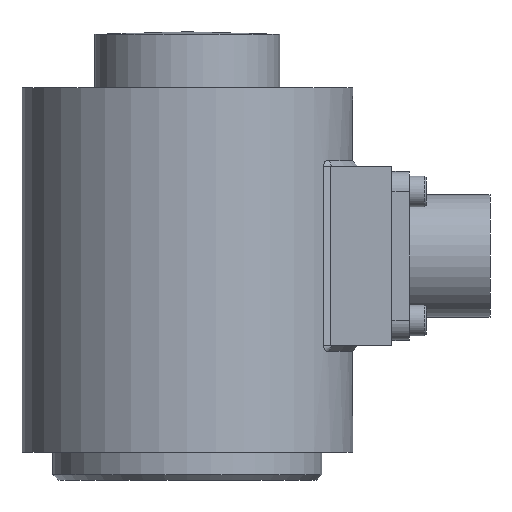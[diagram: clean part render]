
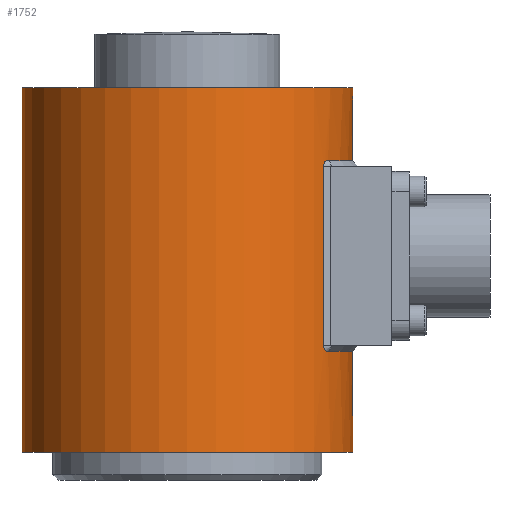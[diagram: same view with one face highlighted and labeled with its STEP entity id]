
A CAD part, left-side view. The second image highlights one B-rep face of the part: STEP entity #1752.
In plain terms, the highlighted cylindrical face has radius 29.5 mm (diameter 59 mm), a full revolution.
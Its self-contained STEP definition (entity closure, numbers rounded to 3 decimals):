
#34=B_SPLINE_CURVE_WITH_KNOTS('',3,(#2540,#2541,#2542,#2543,#2544),
 .UNSPECIFIED.,.F.,.F.,(4,1,4),(0.,0.5,1.),.UNSPECIFIED.);
#37=B_SPLINE_CURVE_WITH_KNOTS('',3,(#2561,#2562,#2563,#2564,#2565),
 .UNSPECIFIED.,.F.,.F.,(4,1,4),(0.,0.5,1.),.UNSPECIFIED.);
#38=B_SPLINE_CURVE_WITH_KNOTS('',3,(#2569,#2570,#2571,#2572,#2573),
 .UNSPECIFIED.,.F.,.F.,(4,1,4),(0.,0.5,1.),.UNSPECIFIED.);
#39=B_SPLINE_CURVE_WITH_KNOTS('',3,(#2576,#2577,#2578,#2579,#2580),
 .UNSPECIFIED.,.F.,.F.,(4,1,4),(0.,0.5,1.),.UNSPECIFIED.);
#143=LINE('',#2556,#243);
#144=LINE('',#2567,#244);
#243=VECTOR('',#2167,1000.);
#244=VECTOR('',#2172,1000.);
#257=CYLINDRICAL_SURFACE('',#1863,29.5);
#538=ORIENTED_EDGE('',*,*,#724,.F.);
#539=ORIENTED_EDGE('',*,*,#725,.T.);
#540=ORIENTED_EDGE('',*,*,#726,.F.);
#541=ORIENTED_EDGE('',*,*,#727,.T.);
#542=ORIENTED_EDGE('',*,*,#728,.F.);
#543=ORIENTED_EDGE('',*,*,#720,.T.);
#544=ORIENTED_EDGE('',*,*,#723,.F.);
#545=ORIENTED_EDGE('',*,*,#729,.T.);
#546=ORIENTED_EDGE('',*,*,#730,.T.);
#547=ORIENTED_EDGE('',*,*,#731,.T.);
#720=EDGE_CURVE('',#841,#840,#34,.T.);
#723=EDGE_CURVE('',#842,#840,#143,.F.);
#724=EDGE_CURVE('',#843,#844,#883,.T.);
#725=EDGE_CURVE('',#843,#845,#37,.T.);
#726=EDGE_CURVE('',#846,#845,#144,.T.);
#727=EDGE_CURVE('',#846,#847,#38,.T.);
#728=EDGE_CURVE('',#841,#847,#884,.T.);
#729=EDGE_CURVE('',#842,#844,#39,.T.);
#730=EDGE_CURVE('',#848,#848,#885,.T.);
#731=EDGE_CURVE('',#849,#849,#886,.F.);
#840=VERTEX_POINT('',#2539);
#841=VERTEX_POINT('',#2545);
#842=VERTEX_POINT('',#2555);
#843=VERTEX_POINT('',#2559);
#844=VERTEX_POINT('',#2560);
#845=VERTEX_POINT('',#2566);
#846=VERTEX_POINT('',#2568);
#847=VERTEX_POINT('',#2574);
#848=VERTEX_POINT('',#2582);
#849=VERTEX_POINT('',#2584);
#883=CIRCLE('',#1864,29.5);
#884=CIRCLE('',#1865,29.5);
#885=CIRCLE('',#1866,29.5);
#886=CIRCLE('',#1867,29.5);
#979=EDGE_LOOP('',(#538,#539,#540,#541,#542,#543,#544,#545));
#980=EDGE_LOOP('',(#546));
#981=EDGE_LOOP('',(#547));
#1085=FACE_BOUND('',#979,.T.);
#1086=FACE_BOUND('',#980,.T.);
#1087=FACE_BOUND('',#981,.T.);
#1752=ADVANCED_FACE('',(#1085,#1086,#1087),#257,.T.);
#1863=AXIS2_PLACEMENT_3D('',#2557,#2168,#2169);
#1864=AXIS2_PLACEMENT_3D('',#2558,#2170,#2171);
#1865=AXIS2_PLACEMENT_3D('',#2575,#2173,#2174);
#1866=AXIS2_PLACEMENT_3D('',#2581,#2175,#2176);
#1867=AXIS2_PLACEMENT_3D('',#2583,#2177,#2178);
#2167=DIRECTION('',(0.,0.,1.));
#2168=DIRECTION('',(0.,0.,1.));
#2169=DIRECTION('',(1.,0.,0.));
#2170=DIRECTION('',(0.,0.,-1.));
#2171=DIRECTION('',(-1.,0.,0.));
#2172=DIRECTION('',(0.,0.,1.));
#2173=DIRECTION('',(0.,0.,1.));
#2174=DIRECTION('',(1.,0.,0.));
#2175=DIRECTION('',(0.,0.,-1.));
#2176=DIRECTION('',(1.,0.,0.));
#2177=DIRECTION('',(0.,0.,-1.));
#2178=DIRECTION('',(-1.,0.,0.));
#2539=CARTESIAN_POINT('',(-16.66,-24.345,-20.99));
#2540=CARTESIAN_POINT('',(-15.466,-25.121,-22.));
#2541=CARTESIAN_POINT('',(-15.741,-24.952,-22.085));
#2542=CARTESIAN_POINT('',(-16.359,-24.554,-21.98));
#2543=CARTESIAN_POINT('',(-16.66,-24.345,-21.324));
#2544=CARTESIAN_POINT('',(-16.66,-24.345,-20.99));
#2545=CARTESIAN_POINT('',(-15.466,-25.121,-22.));
#2555=CARTESIAN_POINT('',(-16.66,-24.345,10.99));
#2556=CARTESIAN_POINT('',(-16.66,-24.345,-164.276));
#2557=CARTESIAN_POINT('',(0.,0.,-164.276));
#2558=CARTESIAN_POINT('',(0.,0.,12.));
#2559=CARTESIAN_POINT('',(15.466,-25.121,12.));
#2560=CARTESIAN_POINT('',(-15.466,-25.121,12.));
#2561=CARTESIAN_POINT('',(15.466,-25.121,12.));
#2562=CARTESIAN_POINT('',(15.741,-24.952,12.085));
#2563=CARTESIAN_POINT('',(16.359,-24.554,11.98));
#2564=CARTESIAN_POINT('',(16.66,-24.345,11.324));
#2565=CARTESIAN_POINT('',(16.66,-24.345,10.99));
#2566=CARTESIAN_POINT('',(16.66,-24.345,10.99));
#2567=CARTESIAN_POINT('',(16.66,-24.345,-164.276));
#2568=CARTESIAN_POINT('',(16.66,-24.345,-20.99));
#2569=CARTESIAN_POINT('',(16.66,-24.345,-20.99));
#2570=CARTESIAN_POINT('',(16.66,-24.345,-21.323));
#2571=CARTESIAN_POINT('',(16.356,-24.556,-21.983));
#2572=CARTESIAN_POINT('',(15.741,-24.952,-22.085));
#2573=CARTESIAN_POINT('',(15.466,-25.121,-22.));
#2574=CARTESIAN_POINT('',(15.466,-25.121,-22.));
#2575=CARTESIAN_POINT('',(0.,0.,-22.));
#2576=CARTESIAN_POINT('',(-16.66,-24.345,10.99));
#2577=CARTESIAN_POINT('',(-16.66,-24.345,11.323));
#2578=CARTESIAN_POINT('',(-16.356,-24.556,11.983));
#2579=CARTESIAN_POINT('',(-15.741,-24.952,12.085));
#2580=CARTESIAN_POINT('',(-15.466,-25.121,12.));
#2581=CARTESIAN_POINT('',(0.,0.,25.));
#2582=CARTESIAN_POINT('',(29.5,0.,25.));
#2583=CARTESIAN_POINT('',(0.,0.,-40.));
#2584=CARTESIAN_POINT('',(-29.5,0.,-40.));
